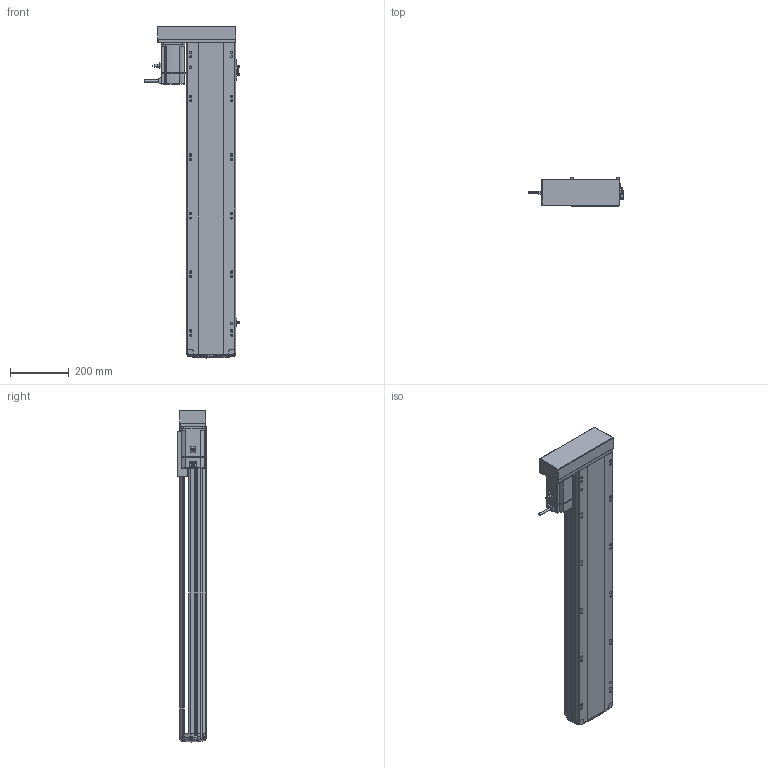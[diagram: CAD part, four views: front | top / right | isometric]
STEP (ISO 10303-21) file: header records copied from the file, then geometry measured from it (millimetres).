
FILE_DESCRIPTION (( 'STEP AP214' ), '1' );
FILE_NAME ('RTH17-XX-850-R-M75-C4.STEP', '2025-10-24T10:18:07', ( '' ), ( '' ), 'SwSTEP 2.0', 'SolidWorks 2018', '' );
FILE_SCHEMA (( 'AUTOMOTIVE_DESIGN' ));
Length unit declared in the file: millimetre
Products named in the file (10): N_OMRON EE-SX672 換覜ん^RTH17-XX-XX-R-M75-C4ㄗ源最宒ㄘ; N_RTH17-E-004丝杆螺母连接座^RTH17-XX-XX-R-M75-C4（方程式）; N_RTH17-GY-001P^RTH17-XX-XX-R-M75-C4（方程式）; N_RTH17-L-008-P75电机安装板左转折^RTH17-XX-XX-R-M75-C4（方程式）; N_RTH-L-012 感应片(外置)^RTH17-XX-XX-R-M75-C4（方程式）; N_RTH17-M-007上盖^RTH17-XX-XX-R-M75-C4（方程式）; N_RTH17-L-018盖子^RTH17-XX-XX-R-M75-C4（方程式）; RTH17-XX-850-R-M75-C4; N_M75^RTH17-XX-XX-R-M75-C4（方程式）; N_RTH17-M-011底座^RTH17-XX-XX-R-M75-C4（方程式）
Assembly tree (11 placements, depth 2):
  RTH17-XX-850-R-M75-C4
    N_RTH17-M-011底座^RTH17-XX-XX-R-M75-C4（方程式）
    N_RTH17-M-007上盖^RTH17-XX-XX-R-M75-C4（方程式）
    N_M75^RTH17-XX-XX-R-M75-C4（方程式）
    N_OMRON EE-SX672 換覜ん^RTH17-XX-XX-R-M75-C4ㄗ源最宒ㄘ  x3
    N_RTH-L-012 感应片(外置)^RTH17-XX-XX-R-M75-C4（方程式）
    N_RTH17-L-008-P75电机安装板左转折^RTH17-XX-XX-R-M75-C4（方程式）
    N_RTH17-L-018盖子^RTH17-XX-XX-R-M75-C4（方程式）
    N_RTH17-E-004丝杆螺母连接座^RTH17-XX-XX-R-M75-C4（方程式）
    N_RTH17-GY-001P^RTH17-XX-XX-R-M75-C4（方程式）
Bounding box: 326.2 x 97 x 1132.99 mm (x, y, z)
Volume: 10222432.1 mm3; surface area: 1279624.2 mm2
Topology: 13 solids, 15 shells, 1757 faces, 4835 edges, 3130 vertices
Faces by surface type: plane 833, cylinder 510, bspline 377, cone 28, torus 9
Entity records: 51269 total; most frequent: CARTESIAN_POINT 20495, ORIENTED_EDGE 6694, DIRECTION 5563, EDGE_CURVE 3351, VERTEX_POINT 2166, AXIS2_PLACEMENT_3D 1873, VECTOR 1817, LINE 1817
